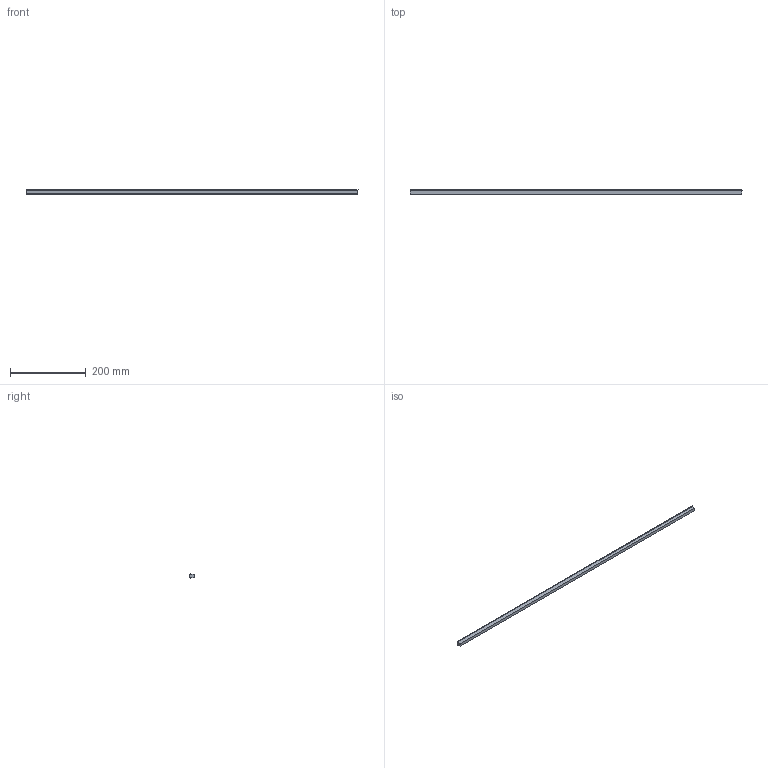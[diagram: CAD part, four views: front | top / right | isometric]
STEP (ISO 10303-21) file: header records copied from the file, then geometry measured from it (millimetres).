
FILE_DESCRIPTION(/* description */ (''),/* implementation_level */ '2;1');
FILE_NAME(/* name */ 'Pos0-Antislip-Rubber-0st_H',/* time_stamp */ '2024-08-06T13:37:43+02:00',/* author */ (''),/* organization */ (''),/* preprocessor_version */ 'ST-DEVELOPER v16.5',/* originating_system */ 'HiCAD 2024 2901.2 Build 361',/* authorisation */ '');
FILE_SCHEMA (('AUTOMOTIVE_DESIGN { 1 0 10303 214 1 1 1 1 }'));
Length unit declared in the file: millimetre
Products named in the file (1): Pos0-Antislip-Rubber-0st
Bounding box: 876.43 x 12 x 12 mm (x, y, z)
Volume: 87643.3 mm3; surface area: 40215.2 mm2
Topology: 1 solids, 1 shells, 10 faces, 24 edges, 16 vertices
Faces by surface type: plane 10
Entity records: 546 total; most frequent: CARTESIAN_POINT 50, PRESENTATION_STYLE_ASSIGNMENT 49, COLOUR_RGB 49, DRAUGHTING_PRE_DEFINED_CURVE_FONT 48, CURVE_STYLE 48, OVER_RIDING_STYLED_ITEM 48, ORIENTED_EDGE 48, DIRECTION 44
